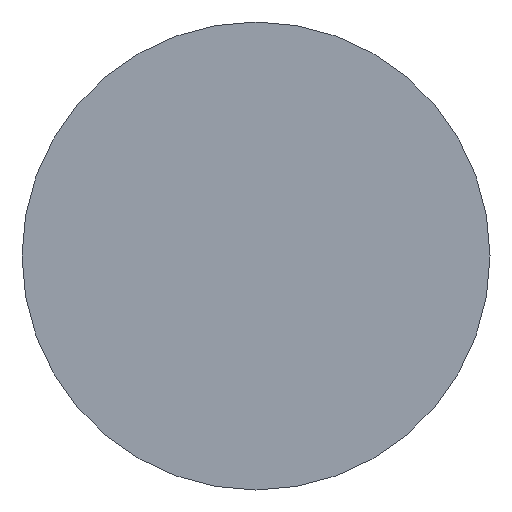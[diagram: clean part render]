
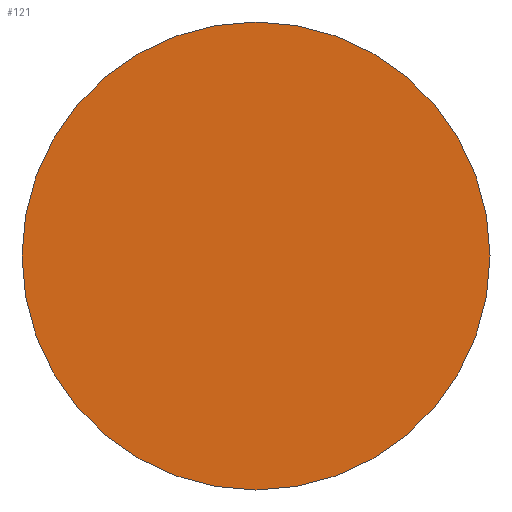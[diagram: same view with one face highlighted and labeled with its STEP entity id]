
A CAD part, left-side view. The second image highlights one B-rep face of the part: STEP entity #121.
In plain terms, the highlighted planar face has unit normal (-1, 0, 0).
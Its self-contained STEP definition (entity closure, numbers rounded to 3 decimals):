
#6 = EDGE_CURVE ( 'NONE', #122, #159, #24, .T. ) ;
#13 = CARTESIAN_POINT ( 'NONE',  ( 0., 0., 0. ) ) ;
#19 = DIRECTION ( 'NONE',  ( 0., 0., -1. ) ) ;
#24 = CIRCLE ( 'NONE', #157, 45. ) ;
#31 = CARTESIAN_POINT ( 'NONE',  ( 0., 0., 45. ) ) ;
#33 = PLANE ( 'NONE',  #139 ) ;
#34 = DIRECTION ( 'NONE',  ( 0., 0., -1. ) ) ;
#47 = DIRECTION ( 'NONE',  ( 0., 0., -1. ) ) ;
#55 = CIRCLE ( 'NONE', #94, 45. ) ;
#69 = CARTESIAN_POINT ( 'NONE',  ( 0., 0., 0. ) ) ;
#81 = DIRECTION ( 'NONE',  ( 1., 0., 0. ) ) ;
#82 = CARTESIAN_POINT ( 'NONE',  ( 0., 0., 0. ) ) ;
#88 = EDGE_CURVE ( 'NONE', #159, #122, #55, .T. ) ;
#92 = FACE_OUTER_BOUND ( 'NONE', #115, .T. ) ;
#94 = AXIS2_PLACEMENT_3D ( 'NONE', #69, #81, #47 ) ;
#114 = DIRECTION ( 'NONE',  ( 1., 0., 0. ) ) ;
#115 = EDGE_LOOP ( 'NONE', ( #160, #138 ) ) ;
#121 = ADVANCED_FACE ( 'NONE', ( #92 ), #33, .F. ) ;
#122 = VERTEX_POINT ( 'NONE', #31 ) ;
#138 = ORIENTED_EDGE ( 'NONE', *, *, #88, .F. ) ;
#139 = AXIS2_PLACEMENT_3D ( 'NONE', #82, #148, #34 ) ;
#148 = DIRECTION ( 'NONE',  ( 1., 0., 0. ) ) ;
#157 = AXIS2_PLACEMENT_3D ( 'NONE', #13, #114, #19 ) ;
#159 = VERTEX_POINT ( 'NONE', #172 ) ;
#160 = ORIENTED_EDGE ( 'NONE', *, *, #6, .F. ) ;
#172 = CARTESIAN_POINT ( 'NONE',  ( 0., 0., -45. ) ) ;
